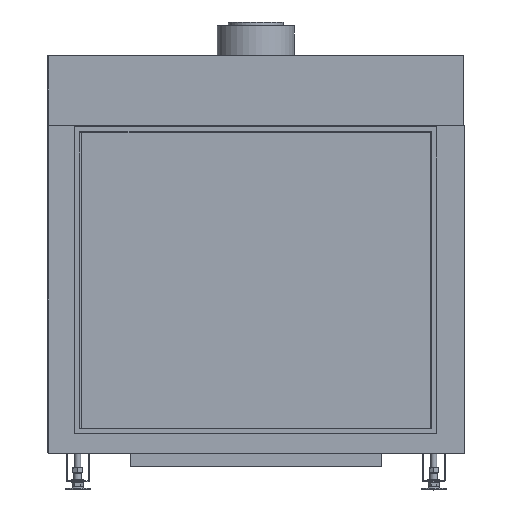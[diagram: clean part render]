
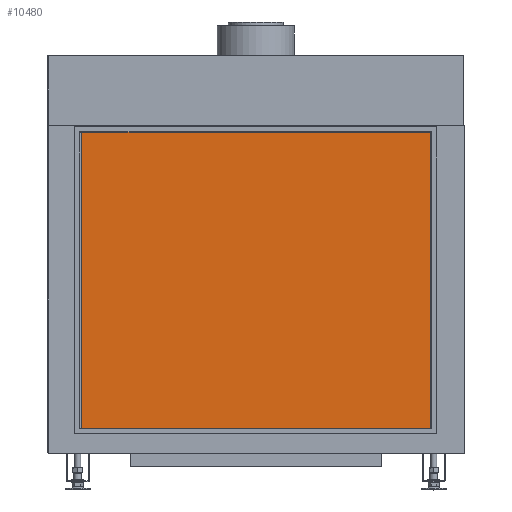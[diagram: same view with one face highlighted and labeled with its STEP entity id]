
A CAD part, top view. The second image highlights one B-rep face of the part: STEP entity #10480.
In plain terms, the highlighted planar face has unit normal (0, 0, 1).
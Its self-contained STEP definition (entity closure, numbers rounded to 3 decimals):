
#10090=CARTESIAN_POINT('',(1738.,5.75,443.696));
#10100=DIRECTION('',(0.,0.,1.));
#10110=DIRECTION('',(1.,0.,0.));
#10120=AXIS2_PLACEMENT_3D('',#10090,#10100,#10110);
#10130=PLANE('',#10120);
#10140=CARTESIAN_POINT('',(1738.,681.1,443.696));
#10150=DIRECTION('',(1.,0.,0.));
#10160=VECTOR('',#10150,1.);
#10170=LINE('',#10140,#10160);
#10180=CARTESIAN_POINT('',(1537.334,681.1,443.696));
#10190=VERTEX_POINT('',#10180);
#10200=CARTESIAN_POINT('',(2230.334,681.1,443.696));
#10210=VERTEX_POINT('',#10200);
#10220=EDGE_CURVE('',#10190,#10210,#10170,.T.);
#10230=ORIENTED_EDGE('',*,*,#10220,.F.);
#10240=CARTESIAN_POINT('',(2230.334,376.1,443.696));
#10250=DIRECTION('',(0.,-1.,0.));
#10260=VECTOR('',#10250,1.);
#10270=LINE('',#10240,#10260);
#10280=CARTESIAN_POINT('',(2230.334,71.1,
443.696));
#10290=VERTEX_POINT('',#10280);
#10300=EDGE_CURVE('',#10210,#10290,#10270,.T.);
#10310=ORIENTED_EDGE('',*,*,#10300,.F.);
#10320=CARTESIAN_POINT('',(1738.,71.1,443.696));
#10330=DIRECTION('',(-1.,0.,0.));
#10340=VECTOR('',#10330,1.);
#10350=LINE('',#10320,#10340);
#10360=CARTESIAN_POINT('',(1537.334,71.1,
443.696));
#10370=VERTEX_POINT('',#10360);
#10380=EDGE_CURVE('',#10290,#10370,#10350,.T.);
#10390=ORIENTED_EDGE('',*,*,#10380,.F.);
#10400=CARTESIAN_POINT('',(1537.334,376.1,443.696));
#10410=DIRECTION('',(0.,1.,0.));
#10420=VECTOR('',#10410,1.);
#10430=LINE('',#10400,#10420);
#10440=EDGE_CURVE('',#10370,#10190,#10430,.T.);
#10450=ORIENTED_EDGE('',*,*,#10440,.F.);
#10460=EDGE_LOOP('',(#10450,#10390,#10310,#10230));
#10470=FACE_OUTER_BOUND('',#10460,.T.);
#10480=ADVANCED_FACE('',(#10470),#10130,.T.);
